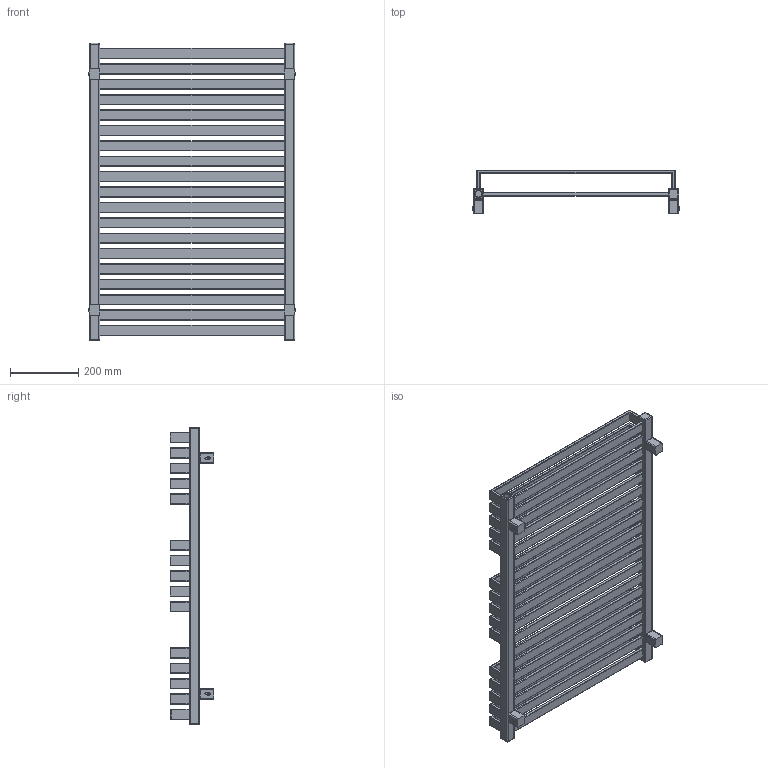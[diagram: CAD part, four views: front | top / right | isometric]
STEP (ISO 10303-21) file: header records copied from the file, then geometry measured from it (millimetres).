
FILE_DESCRIPTION((''),'2;1');
FILE_NAME('Z:\R\G\P\RGP093 - Grzejnik Quadrus Bold 2012\Work\Inventor\Marketing\Modele AutoCAD\QBA-870-600 S5.stp','2012-07-02T07:50:06',('KurKa'),(''),'Autodesk Inventor 2012','Autodesk Inventor 2012','');
FILE_SCHEMA(('AUTOMOTIVE_DESIGN { 1 0 10303 214 1 1 1 1 }'));
Length unit declared in the file: millimetre
Products named in the file (3): QBA-870-600 S5; MMT42_marketing
Assembly tree (5 placements, depth 2):
  QBA-870-600 S5
    QBA-870-600 S5
    MMT42_marketing  x4
Bounding box: 606 x 127 x 870 mm (x, y, z)
Volume: 7735487.6 mm3; surface area: 1786004.3 mm2
Topology: 5 solids, 5 shells, 699 faces, 1809 edges, 1133 vertices
Faces by surface type: cylinder 333, plane 311, cone 27, sphere 16, torus 8, bspline 4
Full cylindrical faces by diameter (mm): 4.509 x4, 12 x4, 18.631 x3
Entity records: 17677 total; most frequent: CARTESIAN_POINT 3302, DIRECTION 3088, ORIENTED_EDGE 2916, EDGE_CURVE 1458, AXIS2_PLACEMENT_3D 1066, VECTOR 956, LINE 956, VERTEX_POINT 916
